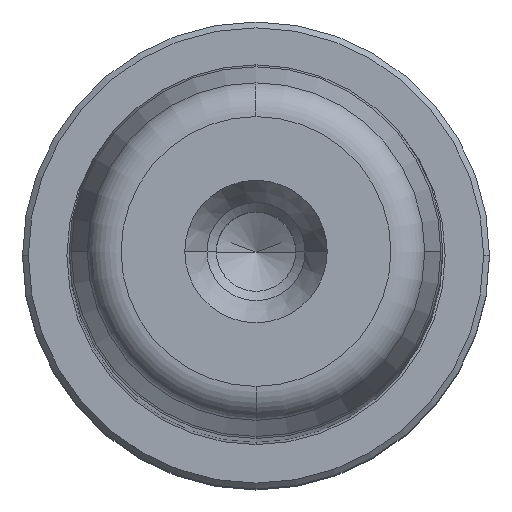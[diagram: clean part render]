
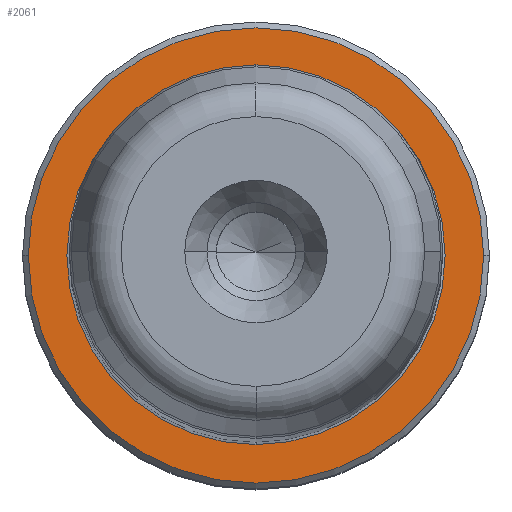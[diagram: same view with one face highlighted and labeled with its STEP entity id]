
A CAD part, top view. The second image highlights one B-rep face of the part: STEP entity #2061.
In plain terms, the highlighted planar face has unit normal (0, 0, 1).
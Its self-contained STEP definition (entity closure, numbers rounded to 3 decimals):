
#898=CARTESIAN_POINT('',(0.0,-16.2,5.));
#899=VERTEX_POINT('',#898);
#907=CARTESIAN_POINT('',(16.2,0.,5.0));
#908=VERTEX_POINT('',#907);
#909=CARTESIAN_POINT('',(0.0,0.,5.0));
#910=DIRECTION('',(0.0,0.0,1.0));
#911=DIRECTION('',(1.0,0.0,0.0));
#912=AXIS2_PLACEMENT_3D('',#909,#910,#911);
#913=CIRCLE('',#912,16.2);
#914=EDGE_CURVE('',#899,#908,#913,.T.);
#916=CARTESIAN_POINT('',(0.,16.2,5.));
#917=VERTEX_POINT('',#916);
#918=CARTESIAN_POINT('',(0.0,0.,5.0));
#919=DIRECTION('',(0.0,0.0,1.0));
#920=DIRECTION('',(1.0,0.0,0.0));
#921=AXIS2_PLACEMENT_3D('',#918,#919,#920);
#922=CIRCLE('',#921,16.2);
#923=EDGE_CURVE('',#908,#917,#922,.T.);
#950=CARTESIAN_POINT('',(19.5,0.,5.0));
#951=VERTEX_POINT('',#950);
#960=CARTESIAN_POINT('',(-19.5,0.,5.0));
#961=VERTEX_POINT('',#960);
#962=CARTESIAN_POINT('',(0.0,0.,5.0));
#963=DIRECTION('',(0.0,0.0,1.0));
#964=DIRECTION('',(1.0,0.0,0.0));
#965=AXIS2_PLACEMENT_3D('',#962,#963,#964);
#966=CIRCLE('',#965,19.5);
#967=EDGE_CURVE('',#961,#951,#966,.T.);
#2031=CARTESIAN_POINT('',(0.0,0.,5.0));
#2032=DIRECTION('',(0.0,0.0,1.0));
#2033=DIRECTION('',(1.0,0.0,0.0));
#2034=AXIS2_PLACEMENT_3D('',#2031,#2032,#2033);
#2035=CIRCLE('',#2034,19.5);
#2036=EDGE_CURVE('',#951,#961,#2035,.T.);
#2041=CARTESIAN_POINT('',(17.85,0.,5.0));
#2042=DIRECTION('',(0.0,0.0,1.0));
#2043=DIRECTION('',(0.0,-1.0,0.0));
#2044=AXIS2_PLACEMENT_3D('',#2041,#2042,#2043);
#2045=PLANE('',#2044);
#2046=ORIENTED_EDGE('',*,*,#2036,.T.);
#2047=ORIENTED_EDGE('',*,*,#967,.T.);
#2048=EDGE_LOOP('',(#2046,#2047));
#2049=FACE_OUTER_BOUND('',#2048,.T.);
#2050=ORIENTED_EDGE('',*,*,#923,.F.);
#2051=ORIENTED_EDGE('',*,*,#914,.F.);
#2052=CARTESIAN_POINT('',(0.0,0.,5.0));
#2053=DIRECTION('',(0.0,0.0,1.0));
#2054=DIRECTION('',(1.0,0.0,0.0));
#2055=AXIS2_PLACEMENT_3D('',#2052,#2053,#2054);
#2056=CIRCLE('',#2055,16.2);
#2057=EDGE_CURVE('',#917,#899,#2056,.T.);
#2058=ORIENTED_EDGE('',*,*,#2057,.F.);
#2059=EDGE_LOOP('',(#2050,#2051,#2058));
#2060=FACE_BOUND('',#2059,.T.);
#2061=ADVANCED_FACE('',(#2049,#2060),#2045,.T.);
